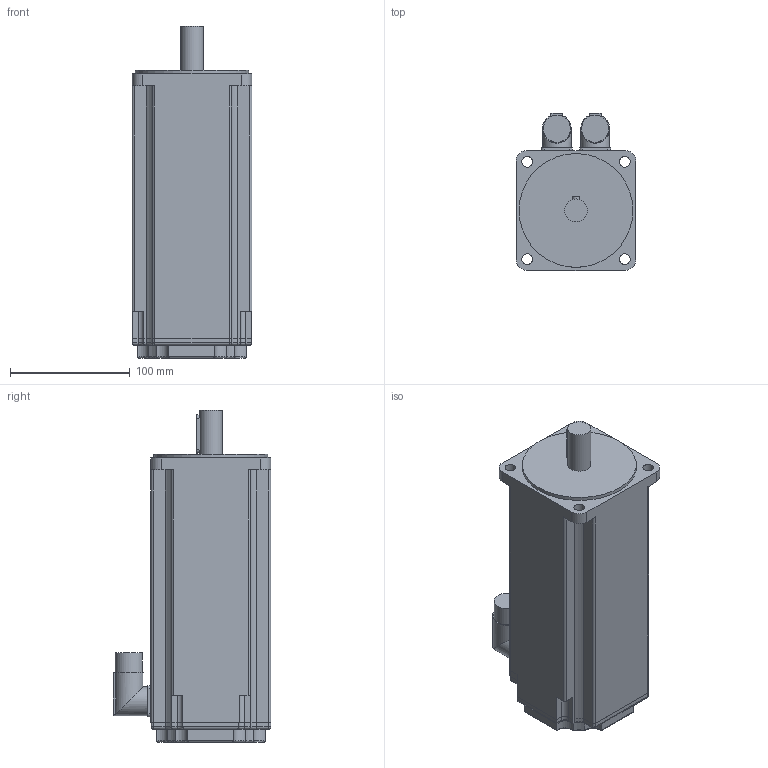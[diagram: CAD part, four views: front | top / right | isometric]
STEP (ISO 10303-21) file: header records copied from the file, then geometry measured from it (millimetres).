
FILE_DESCRIPTION(/* description */ (''),/* implementation_level */ '2;1');
FILE_NAME(/* name */ '\\Lafnas01\disegni\Archivi Lafert\3D\CAD 3D\MODELLI\Assiemi clienti\Serad\Modelli 3D Serad\B63Q\Encoder\Enc With Brake\B6308Qxx6BRx2033.ipt.stp',/* time_stamp */ '2015-09-07T10:50:56+02:00',/* author */ ('Pastrello Ylenia'),/* organization */ (''),/* preprocessor_version */ 'ST-DEVELOPER v15.6',/* originating_system */ 'Autodesk Inventor 2015',/* authorisation */ '');
FILE_SCHEMA (('AUTOMOTIVE_DESIGN { 1 0 10303 214 3 1 1 }'));
Length unit declared in the file: millimetre
Products named in the file (1): B6308Qxx6BRx2033
Bounding box: 100 x 131.5 x 277 mm (x, y, z)
Volume: 2165422.7 mm3; surface area: 122096.6 mm2
Topology: 1 solids, 1 shells, 195 faces, 500 edges, 318 vertices
Faces by surface type: cylinder 90, plane 81, torus 20, sphere 4
Full cylindrical faces by diameter (mm): 9 x4, 19 x1, 22.7 x2, 24 x2, 95 x1
Entity records: 6152 total; most frequent: CARTESIAN_POINT 1342, DIRECTION 1030, ORIENTED_EDGE 972, EDGE_CURVE 486, AXIS2_PLACEMENT_3D 374, VERTEX_POINT 314, LINE 282, VECTOR 282
